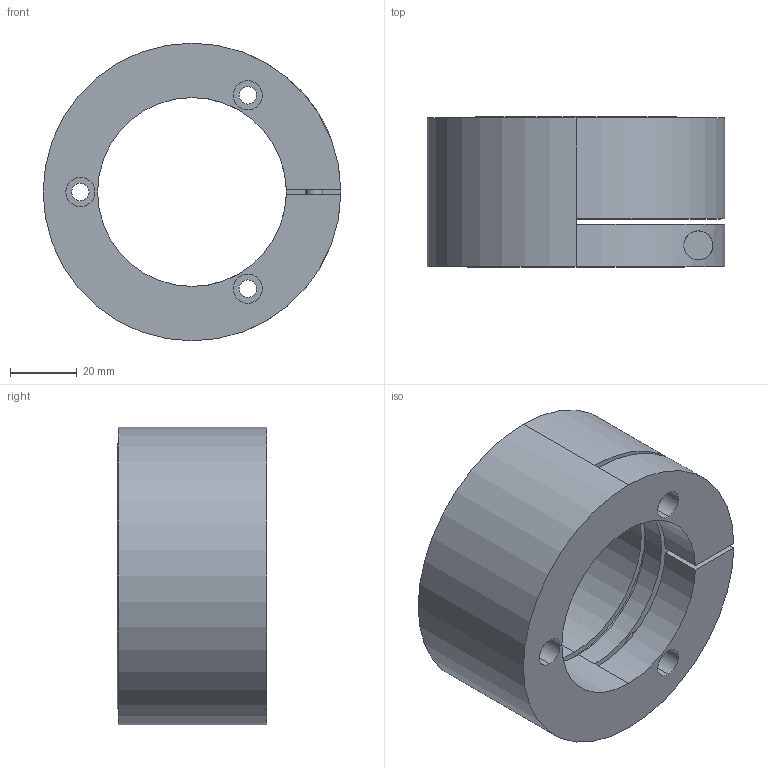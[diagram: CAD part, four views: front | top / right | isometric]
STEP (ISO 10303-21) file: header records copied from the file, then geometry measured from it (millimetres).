
FILE_DESCRIPTION (( 'STEP AP214' ), '1' );
FILE_NAME ('TC-50.STEP', '2017-05-09T20:26:19', ( '' ), ( '' ), 'SwSTEP 2.0', 'SolidWorks 2017', '' );
FILE_SCHEMA (( 'AUTOMOTIVE_DESIGN' ));
Length unit declared in the file: inch
Products named in the file (1): TC-50
Bounding box: 88.9 x 44.7 x 88.9 mm (x, y, z)
Volume: 155153.5 mm3; surface area: 36922.6 mm2
Topology: 2 solids, 2 shells, 64 faces, 146 edges, 92 vertices
Faces by surface type: cylinder 40, plane 18, torus 6
Entity records: 1987 total; most frequent: CARTESIAN_POINT 381, DIRECTION 362, ORIENTED_EDGE 292, AXIS2_PLACEMENT_3D 153, EDGE_CURVE 146, VERTEX_POINT 92, CIRCLE 88, EDGE_LOOP 86
